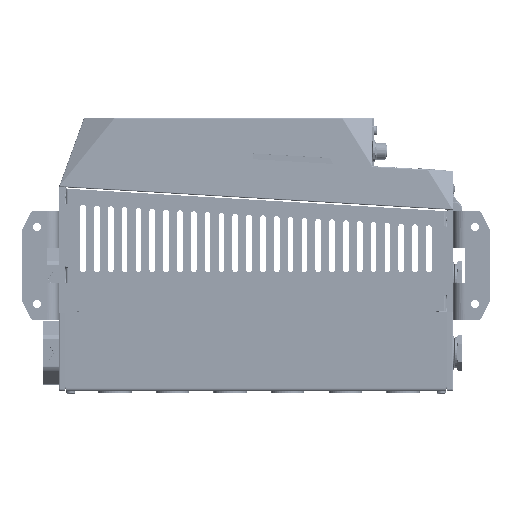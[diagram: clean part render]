
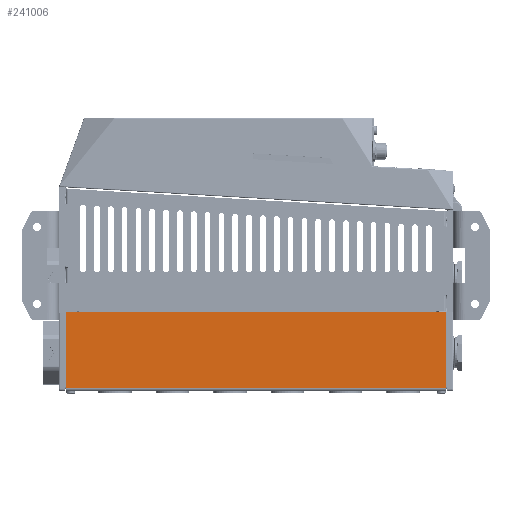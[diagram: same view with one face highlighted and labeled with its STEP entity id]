
A CAD part, left-side view. The second image highlights one B-rep face of the part: STEP entity #241006.
In plain terms, the highlighted planar face has unit normal (-1, 0, 0) as drawn and (0, -1, 0) by its records, which use the part's own axes.
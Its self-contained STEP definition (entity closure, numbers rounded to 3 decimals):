
#1727 = CARTESIAN_POINT ( 'NONE',  ( 68., -84., 165. ) ) ;
#4759 = VERTEX_POINT ( 'NONE', #64042 ) ;
#25929 = EDGE_CURVE ( 'NONE', #305579, #313580, #336774, .T. ) ;
#29770 = ORIENTED_EDGE ( 'NONE', *, *, #300329, .T. ) ;
#37755 = ORIENTED_EDGE ( 'NONE', *, *, #25929, .T. ) ;
#42300 = VECTOR ( 'NONE', #199001, 1000. ) ;
#45521 = DIRECTION ( 'NONE',  ( 1., 0., 0. ) ) ;
#53133 = EDGE_LOOP ( 'NONE', ( #59602, #170115, #282046, #29770, #37755, #63395 ) ) ;
#55918 = EDGE_CURVE ( 'NONE', #127480, #4759, #152378, .T. ) ;
#59602 = ORIENTED_EDGE ( 'NONE', *, *, #347513, .F. ) ;
#63395 = ORIENTED_EDGE ( 'NONE', *, *, #352038, .F. ) ;
#64042 = CARTESIAN_POINT ( 'NONE',  ( 67., -84., 165. ) ) ;
#72761 = VERTEX_POINT ( 'NONE', #338943 ) ;
#76886 = CARTESIAN_POINT ( 'NONE',  ( 67., -84., -165. ) ) ;
#82131 = VECTOR ( 'NONE', #45521, 1000. ) ;
#84766 = AXIS2_PLACEMENT_3D ( 'NONE', #184109, #317785, #123449 ) ;
#87405 = VECTOR ( 'NONE', #271013, 1000. ) ;
#100198 = CARTESIAN_POINT ( 'NONE',  ( 67., -84., 164. ) ) ;
#101972 = DIRECTION ( 'NONE',  ( -1., 0., 0. ) ) ;
#122127 = CARTESIAN_POINT ( 'NONE',  ( 0., -84., 165. ) ) ;
#123449 = DIRECTION ( 'NONE',  ( -1., 0., 0. ) ) ;
#125574 = AXIS2_PLACEMENT_3D ( 'NONE', #351414, #242602, #140803 ) ;
#127480 = VERTEX_POINT ( 'NONE', #252036 ) ;
#140803 = DIRECTION ( 'NONE',  ( -1., 0., 0. ) ) ;
#152378 = LINE ( 'NONE', #122127, #42300 ) ;
#157126 = CARTESIAN_POINT ( 'NONE',  ( 2., -84., -165. ) ) ;
#170115 = ORIENTED_EDGE ( 'NONE', *, *, #325366, .F. ) ;
#172170 = VECTOR ( 'NONE', #347669, 1000. ) ;
#178103 = VERTEX_POINT ( 'NONE', #246954 ) ;
#183336 = CIRCLE ( 'NONE', #228850, 1. ) ;
#184109 = CARTESIAN_POINT ( 'NONE',  ( 0., -84., 165. ) ) ;
#185419 = CARTESIAN_POINT ( 'NONE',  ( 2., -84., 165. ) ) ;
#199001 = DIRECTION ( 'NONE',  ( 1., 0., 0. ) ) ;
#228850 = AXIS2_PLACEMENT_3D ( 'NONE', #100198, #269531, #101972 ) ;
#238860 = LINE ( 'NONE', #185419, #172170 ) ;
#241006 = ADVANCED_FACE ( 'NONE', ( #262548 ), #319591, .T. ) ;
#242602 = DIRECTION ( 'NONE',  ( 0., 1., 0. ) ) ;
#246954 = CARTESIAN_POINT ( 'NONE',  ( 68., -84., -164. ) ) ;
#252036 = CARTESIAN_POINT ( 'NONE',  ( 2., -84., 165. ) ) ;
#256464 = CIRCLE ( 'NONE', #125574, 1. ) ;
#258747 = LINE ( 'NONE', #1727, #87405 ) ;
#262548 = FACE_OUTER_BOUND ( 'NONE', #53133, .T. ) ;
#269531 = DIRECTION ( 'NONE',  ( 0., 1., 0. ) ) ;
#271013 = DIRECTION ( 'NONE',  ( 0., 0., -1. ) ) ;
#282046 = ORIENTED_EDGE ( 'NONE', *, *, #55918, .F. ) ;
#289786 = CARTESIAN_POINT ( 'NONE',  ( 0., -84., -165. ) ) ;
#300329 = EDGE_CURVE ( 'NONE', #127480, #305579, #238860, .T. ) ;
#305579 = VERTEX_POINT ( 'NONE', #157126 ) ;
#313580 = VERTEX_POINT ( 'NONE', #76886 ) ;
#317785 = DIRECTION ( 'NONE',  ( 0., -1., 0. ) ) ;
#319591 = PLANE ( 'NONE',  #84766 ) ;
#325366 = EDGE_CURVE ( 'NONE', #4759, #72761, #183336, .T. ) ;
#336774 = LINE ( 'NONE', #289786, #82131 ) ;
#338943 = CARTESIAN_POINT ( 'NONE',  ( 68., -84., 164. ) ) ;
#347513 = EDGE_CURVE ( 'NONE', #72761, #178103, #258747, .T. ) ;
#347669 = DIRECTION ( 'NONE',  ( 0., 0., -1. ) ) ;
#351414 = CARTESIAN_POINT ( 'NONE',  ( 67., -84., -164. ) ) ;
#352038 = EDGE_CURVE ( 'NONE', #178103, #313580, #256464, .T. ) ;
